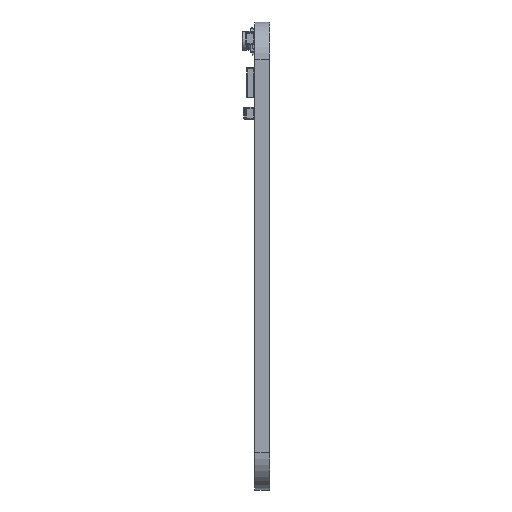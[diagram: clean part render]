
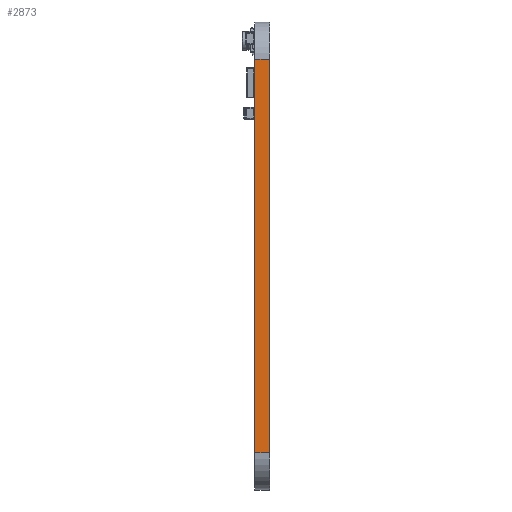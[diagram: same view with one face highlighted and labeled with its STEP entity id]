
A CAD part, left-side view. The second image highlights one B-rep face of the part: STEP entity #2873.
In plain terms, the highlighted planar face has unit normal (-1, 0, 0).
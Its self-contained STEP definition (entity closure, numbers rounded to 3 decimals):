
#671 = EDGE_LOOP ( 'NONE', ( #20225, #20179, #20194, #20187 ) ) ;
#2321 = CARTESIAN_POINT ( 'NONE',  ( 100., 0., -146. ) ) ;
#2325 = DIRECTION ( 'NONE',  ( 0., 0., 1. ) ) ;
#2538 = CARTESIAN_POINT ( 'NONE',  ( 100., -1.6, -146. ) ) ;
#2556 = DIRECTION ( 'NONE',  ( 0., 0., 1. ) ) ;
#2734 = DIRECTION ( 'NONE',  ( 0., 1., 0. ) ) ;
#2750 = CARTESIAN_POINT ( 'NONE',  ( 100., -1.6, -146. ) ) ;
#2873 = ADVANCED_FACE ( 'NONE', ( #6732 ), #8358, .T. ) ;
#6732 = FACE_OUTER_BOUND ( 'NONE', #671, .T. ) ;
#8337 = DIRECTION ( 'NONE',  ( -1., 0., 0. ) ) ;
#8358 = PLANE ( 'NONE',  #13912 ) ;
#8368 = CARTESIAN_POINT ( 'NONE',  ( 100., -1.6, -146. ) ) ;
#8369 = DIRECTION ( 'NONE',  ( 0., 0., 1. ) ) ;
#11652 = VERTEX_POINT ( 'NONE', #21336 ) ;
#11676 = VERTEX_POINT ( 'NONE', #21324 ) ;
#11829 = VERTEX_POINT ( 'NONE', #21475 ) ;
#11864 = VERTEX_POINT ( 'NONE', #21483 ) ;
#13348 = EDGE_CURVE ( 'NONE', #11652, #11676, #23637, .T. ) ;
#13451 = EDGE_CURVE ( 'NONE', #11829, #11864, #23793, .T. ) ;
#13517 = EDGE_CURVE ( 'NONE', #11829, #11652, #23865, .T. ) ;
#13552 = EDGE_CURVE ( 'NONE', #11864, #11676, #23924, .T. ) ;
#13912 = AXIS2_PLACEMENT_3D ( 'NONE', #8368, #8337, #8369 ) ;
#17906 = CARTESIAN_POINT ( 'NONE',  ( 100., -1.6, -104. ) ) ;
#17908 = DIRECTION ( 'NONE',  ( 0., 1., 0. ) ) ;
#20179 = ORIENTED_EDGE ( 'NONE', *, *, #13517, .F. ) ;
#20187 = ORIENTED_EDGE ( 'NONE', *, *, #13552, .T. ) ;
#20194 = ORIENTED_EDGE ( 'NONE', *, *, #13451, .T. ) ;
#20225 = ORIENTED_EDGE ( 'NONE', *, *, #13348, .F. ) ;
#21324 = CARTESIAN_POINT ( 'NONE',  ( 100., 0., -104. ) ) ;
#21336 = CARTESIAN_POINT ( 'NONE',  ( 100., 0., -146. ) ) ;
#21475 = CARTESIAN_POINT ( 'NONE',  ( 100., -1.6, -146. ) ) ;
#21483 = CARTESIAN_POINT ( 'NONE',  ( 100., -1.6, -104. ) ) ;
#23634 = VECTOR ( 'NONE', #2325, 1000. ) ;
#23637 = LINE ( 'NONE', #2321, #23634 ) ;
#23783 = VECTOR ( 'NONE', #2556, 1000. ) ;
#23793 = LINE ( 'NONE', #2538, #23783 ) ;
#23865 = LINE ( 'NONE', #2750, #23871 ) ;
#23871 = VECTOR ( 'NONE', #2734, 1000. ) ;
#23915 = VECTOR ( 'NONE', #17908, 1000. ) ;
#23924 = LINE ( 'NONE', #17906, #23915 ) ;
